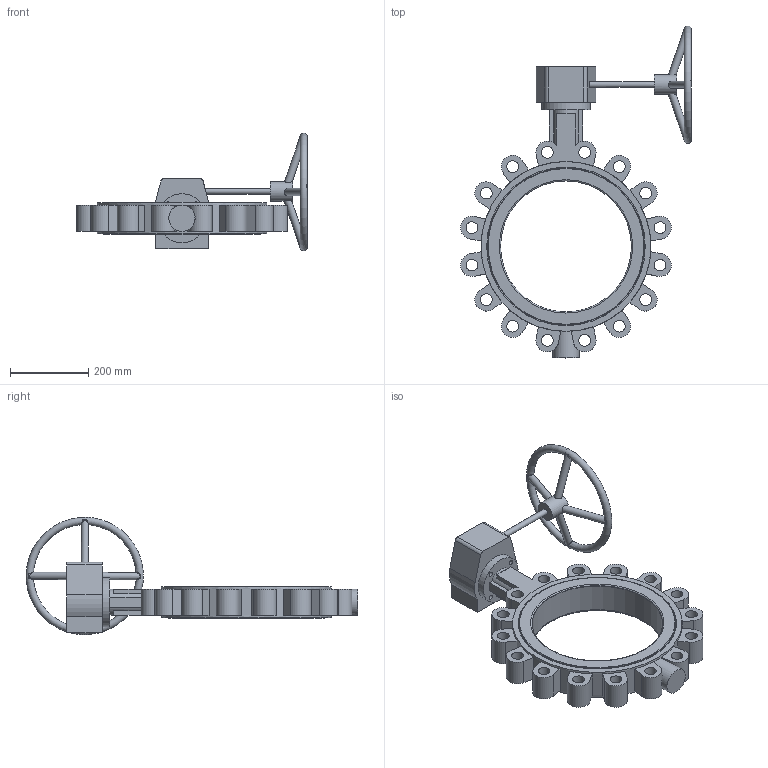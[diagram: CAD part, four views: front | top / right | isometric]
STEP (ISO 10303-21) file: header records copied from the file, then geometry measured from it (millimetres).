
FILE_DESCRIPTION (( 'STEP AP203' ), '1' );
FILE_NAME ('2502 LT型中线衬胶带销 手动头蝶阀 DN350 PN25 CD0309063.STEP', '2026-03-31T01:28:55', ( '' ), ( '' ), 'SwSTEP 2.0', 'SolidWorks 2018', '' );
FILE_SCHEMA (( 'CONFIG_CONTROL_DESIGN' ));
Length unit declared in the file: millimetre
Products named in the file (4): GALA-D350-04AZC-00; 2502 LT型中线衬胶带销 手动头蝶阀 DN350 PN25 CD0309063; G150蚾饜 潠趙; GALA-D350-01LC25-01
Assembly tree (3 placements, depth 2):
  2502 LT型中线衬胶带销 手动头蝶阀 DN350 PN25 CD0309063
    GALA-D350-01LC25-01
    GALA-D350-04AZC-00
    G150蚾饜 潠趙
Bounding box: 589.74 x 848 x 299.95 mm (x, y, z)
Volume: 10683105.3 mm3; surface area: 1166541.9 mm2
Topology: 3 solids, 8 shells, 195 faces, 472 edges, 311 vertices
Faces by surface type: plane 109, cylinder 70, torus 10, cone 6
Full cylindrical faces by diameter (mm): 12 x4, 15 x1, 18.75 x4, 30 x16, 50 x1, 67 x1, 125 x1, 334.636 x1, 345 x2, 400 x2, 405 x2, 434 x1
Entity records: 10271 total; most frequent: CARTESIAN_POINT 5424, DIRECTION 928, ORIENTED_EDGE 814, EDGE_CURVE 407, AXIS2_PLACEMENT_3D 365, EDGE_LOOP 316, VERTEX_POINT 299, FACE_OUTER_BOUND 237
